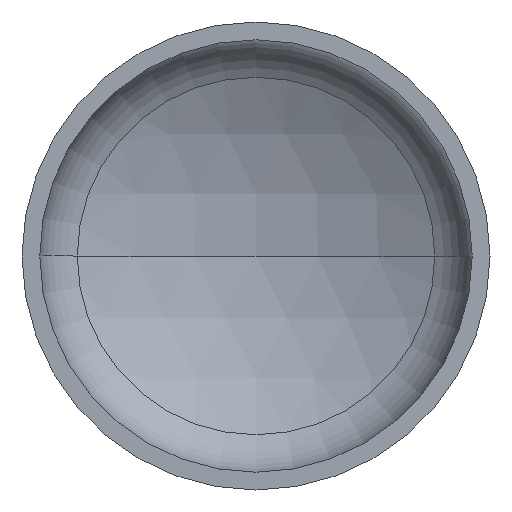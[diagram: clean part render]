
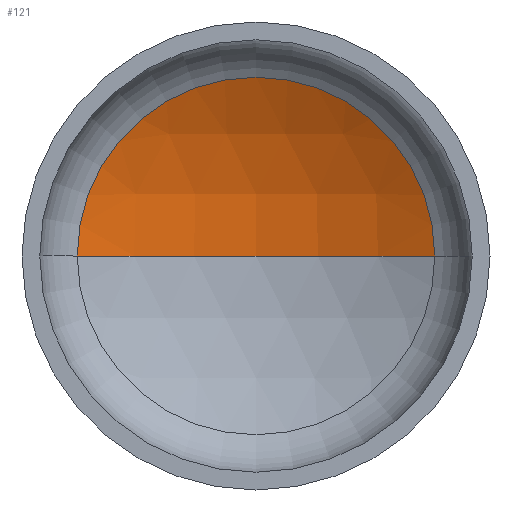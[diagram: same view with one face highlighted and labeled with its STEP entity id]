
A CAD part, front view. The second image highlights one B-rep face of the part: STEP entity #121.
In plain terms, the highlighted spherical face has radius 2400 mm.
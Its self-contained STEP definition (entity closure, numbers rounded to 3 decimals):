
#4 = CARTESIAN_POINT ( 'NONE',  ( 1145.567, 479.216, 0. ) ) ;
#8 = DIRECTION ( 'NONE',  ( 1., 0., 0. ) ) ;
#14 = DIRECTION ( 'NONE',  ( 0., 0., 1. ) ) ;
#15 = EDGE_LOOP ( 'NONE', ( #120, #39, #103 ) ) ;
#18 = VERTEX_POINT ( 'NONE', #281 ) ;
#28 = AXIS2_PLACEMENT_3D ( 'NONE', #193, #356, #263 ) ;
#30 = AXIS2_PLACEMENT_3D ( 'NONE', #242, #14, #8 ) ;
#32 = AXIS2_PLACEMENT_3D ( 'NONE', #330, #198, #361 ) ;
#33 = AXIS2_PLACEMENT_3D ( 'NONE', #209, #210, #190 ) ;
#39 = ORIENTED_EDGE ( 'NONE', *, *, #90, .T. ) ;
#65 = VERTEX_POINT ( 'NONE', #247 ) ;
#89 = EDGE_CURVE ( 'NONE', #122, #18, #154, .T. ) ;
#90 = EDGE_CURVE ( 'NONE', #65, #122, #397, .T. ) ;
#92 = EDGE_CURVE ( 'NONE', #65, #18, #272, .T. ) ;
#103 = ORIENTED_EDGE ( 'NONE', *, *, #89, .T. ) ;
#120 = ORIENTED_EDGE ( 'NONE', *, *, #92, .F. ) ;
#121 = ADVANCED_FACE ( 'NONE', ( #147 ), #214, .F. ) ;
#122 = VERTEX_POINT ( 'NONE', #4 ) ;
#147 = FACE_OUTER_BOUND ( 'NONE', #15, .T. ) ;
#154 = CIRCLE ( 'NONE', #33, 1145.567 ) ;
#190 = DIRECTION ( 'NONE',  ( 1., 0., 0. ) ) ;
#193 = CARTESIAN_POINT ( 'NONE',  ( 0., -1629.736, 0. ) ) ;
#198 = DIRECTION ( 'NONE',  ( 0., 0., -1. ) ) ;
#209 = CARTESIAN_POINT ( 'NONE',  ( 0., 479.216, 0. ) ) ;
#210 = DIRECTION ( 'NONE',  ( 0., -1., 0. ) ) ;
#214 = SPHERICAL_SURFACE ( 'NONE', #28, 2400. ) ;
#242 = CARTESIAN_POINT ( 'NONE',  ( 0., -1629.736, 0. ) ) ;
#247 = CARTESIAN_POINT ( 'NONE',  ( 0., 770.264, 0. ) ) ;
#263 = DIRECTION ( 'NONE',  ( -1., 0., 0. ) ) ;
#272 = CIRCLE ( 'NONE', #30, 2400. ) ;
#281 = CARTESIAN_POINT ( 'NONE',  ( -1145.567, 479.216, 0. ) ) ;
#330 = CARTESIAN_POINT ( 'NONE',  ( 0., -1629.736, 0. ) ) ;
#356 = DIRECTION ( 'NONE',  ( 0., 0., -1. ) ) ;
#361 = DIRECTION ( 'NONE',  ( -1., 0., 0. ) ) ;
#397 = CIRCLE ( 'NONE', #32, 2400. ) ;
